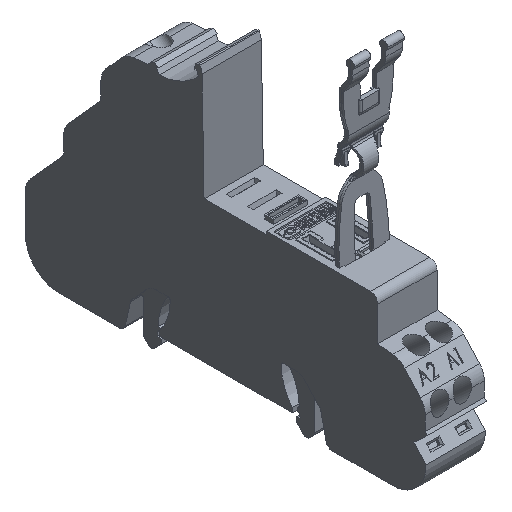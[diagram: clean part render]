
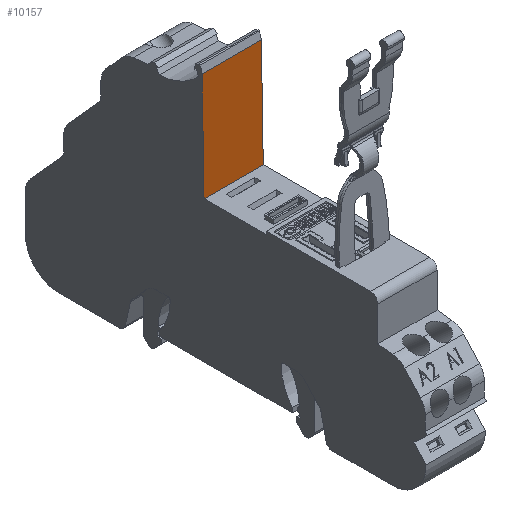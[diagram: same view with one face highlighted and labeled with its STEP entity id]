
A CAD part, isometric view. The second image highlights one B-rep face of the part: STEP entity #10157.
In plain terms, the highlighted planar face has unit normal (0, -1, 0.018).
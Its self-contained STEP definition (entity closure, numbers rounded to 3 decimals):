
#510 = VERTEX_POINT ( 'NONE', #7319 ) ;
#2523 = LINE ( 'NONE', #14561, #13951 ) ;
#2524 = VECTOR ( 'NONE', #22955, 1000. ) ;
#3651 = FACE_OUTER_BOUND ( 'NONE', #5877, .T. ) ;
#4584 = VERTEX_POINT ( 'NONE', #21467 ) ;
#5689 = VERTEX_POINT ( 'NONE', #6390 ) ;
#5877 = EDGE_LOOP ( 'NONE', ( #38709, #32170, #12251, #22401 ) ) ;
#6390 = CARTESIAN_POINT ( 'NONE',  ( 0., 54.318, 38.563 ) ) ;
#7319 = CARTESIAN_POINT ( 'NONE',  ( 14.4, 54.318, 38.563 ) ) ;
#7536 = PLANE ( 'NONE',  #23378 ) ;
#10157 = ADVANCED_FACE ( 'NONE', ( #3651 ), #7536, .F. ) ;
#10377 = VECTOR ( 'NONE', #23813, 1000. ) ;
#11224 = DIRECTION ( 'NONE',  ( -1., 0., 0. ) ) ;
#11625 = LINE ( 'NONE', #14242, #37030 ) ;
#11792 = CARTESIAN_POINT ( 'NONE',  ( 14.4, 54.318, 38.563 ) ) ;
#12251 = ORIENTED_EDGE ( 'NONE', *, *, #27941, .F. ) ;
#13111 = CARTESIAN_POINT ( 'NONE',  ( 14.4, 54.318, 38.563 ) ) ;
#13951 = VECTOR ( 'NONE', #26510, 1000. ) ;
#14242 = CARTESIAN_POINT ( 'NONE',  ( 14.4, 54.774, 64.66 ) ) ;
#14561 = CARTESIAN_POINT ( 'NONE',  ( 14.4, 54.318, 38.563 ) ) ;
#18879 = EDGE_CURVE ( 'NONE', #33821, #5689, #22762, .T. ) ;
#19500 = EDGE_CURVE ( 'NONE', #4584, #33821, #11625, .T. ) ;
#21467 = CARTESIAN_POINT ( 'NONE',  ( 14.4, 54.774, 64.66 ) ) ;
#22401 = ORIENTED_EDGE ( 'NONE', *, *, #19500, .T. ) ;
#22762 = LINE ( 'NONE', #31196, #2524 ) ;
#22955 = DIRECTION ( 'NONE',  ( 0., -0.017, -1. ) ) ;
#23378 = AXIS2_PLACEMENT_3D ( 'NONE', #13111, #31151, #28203 ) ;
#23623 = LINE ( 'NONE', #11792, #10377 ) ;
#23813 = DIRECTION ( 'NONE',  ( -1., 0., 0. ) ) ;
#24116 = EDGE_CURVE ( 'NONE', #510, #5689, #23623, .T. ) ;
#26499 = CARTESIAN_POINT ( 'NONE',  ( 0., 54.774, 64.66 ) ) ;
#26510 = DIRECTION ( 'NONE',  ( 0., -0.017, -1. ) ) ;
#27941 = EDGE_CURVE ( 'NONE', #4584, #510, #2523, .T. ) ;
#28203 = DIRECTION ( 'NONE',  ( 0., 0.017, 1. ) ) ;
#31151 = DIRECTION ( 'NONE',  ( 0., 1., -0.017 ) ) ;
#31196 = CARTESIAN_POINT ( 'NONE',  ( 0., 54.318, 38.563 ) ) ;
#32170 = ORIENTED_EDGE ( 'NONE', *, *, #24116, .F. ) ;
#33821 = VERTEX_POINT ( 'NONE', #26499 ) ;
#37030 = VECTOR ( 'NONE', #11224, 1000. ) ;
#38709 = ORIENTED_EDGE ( 'NONE', *, *, #18879, .T. ) ;
